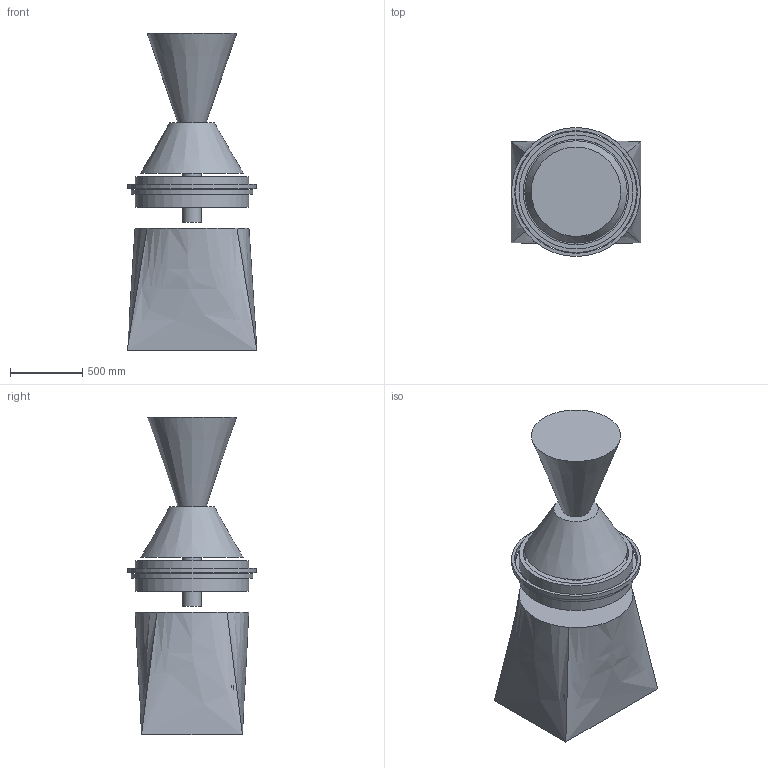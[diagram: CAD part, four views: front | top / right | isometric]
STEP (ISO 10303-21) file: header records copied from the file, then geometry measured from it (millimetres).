
FILE_DESCRIPTION(('Open CASCADE Model'),'2;1');
FILE_NAME('Open CASCADE Shape Model','2026-09-10T08:38:50',('Author'),( 'Open CASCADE'),'Open CASCADE STEP processor 7.9','Open CASCADE 7.9' ,'Unknown');
FILE_SCHEMA(('AUTOMOTIVE_DESIGN { 1 0 10303 214 1 1 1 1 }'));
Length unit declared in the file: millimetre
Products named in the file (13): wrde-hybrid; housing; intake-disk; exhaust-disk; support-carrier--80; support-carrier-80; central-drive-envelope; fuel-manifold; air-inlet-envelope; collector-envelope; variable-nozzle-envelope; oxygen-manifold; air-isolation-envelope
Assembly tree (12 placements, depth 2):
  wrde-hybrid
    housing
    intake-disk
    exhaust-disk
    support-carrier--80
    support-carrier-80
    central-drive-envelope
    fuel-manifold
    air-inlet-envelope
    collector-envelope
    variable-nozzle-envelope
    oxygen-manifold
    air-isolation-envelope
Bounding box: 900 x 894 x 2200 mm (x, y, z)
Volume: 693927630.9 mm3; surface area: 10399267.2 mm2
Topology: 12 solids, 12 shells, 54 faces, 84 edges, 56 vertices
Faces by surface type: plane 30, cylinder 17, bspline 5, cone 2
Full cylindrical faces by diameter (mm): 130 x1, 160 x2, 180 x2, 480 x2, 496 x2, 700 x2, 730 x1, 790 x2, 840 x1, 850 x1, 894 x1
Entity records: 2728 total; most frequent: CARTESIAN_POINT 476, DIRECTION 409, ORIENTED_EDGE 168, PCURVE 168, DEFINITIONAL_REPRESENTATION 168, LINE 156, VECTOR 156, AXIS2_PLACEMENT_3D 105
